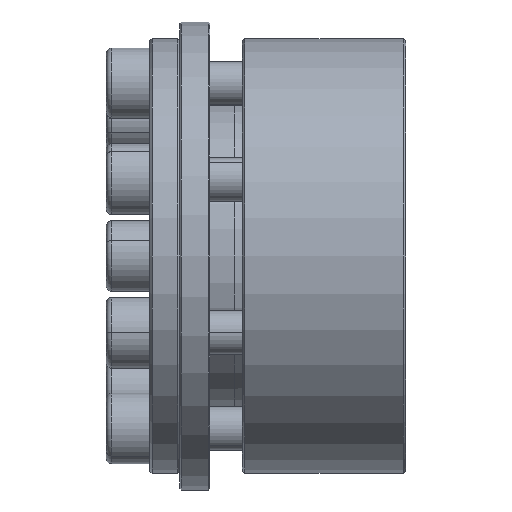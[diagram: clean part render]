
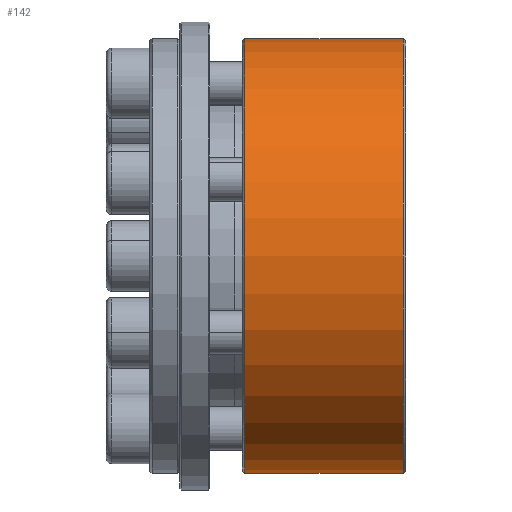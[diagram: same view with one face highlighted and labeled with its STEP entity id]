
A CAD part, front view. The second image highlights one B-rep face of the part: STEP entity #142.
In plain terms, the highlighted cylindrical face has radius 39.95 mm (diameter 79.9 mm), a partial arc.
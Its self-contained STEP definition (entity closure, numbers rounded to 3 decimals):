
#83 = CIRCLE ( 'NONE', #3886, 39.95 ) ;
#89 = DIRECTION ( 'NONE',  ( 0., 0., 1. ) ) ;
#142 = ADVANCED_FACE ( 'NONE', ( #3834 ), #3316, .T. ) ;
#377 = CARTESIAN_POINT ( 'NONE',  ( -88.366, 26.04, 39.95 ) ) ;
#1740 = CIRCLE ( 'NONE', #6519, 39.95 ) ;
#1746 = LINE ( 'NONE', #5666, #4339 ) ;
#1789 = DIRECTION ( 'NONE',  ( 0., 0., 1. ) ) ;
#2067 = DIRECTION ( 'NONE',  ( 1., 0., 0. ) ) ;
#2192 = VERTEX_POINT ( 'NONE', #377 ) ;
#2491 = CARTESIAN_POINT ( 'NONE',  ( -88.366, 26.04, -39.95 ) ) ;
#2564 = ORIENTED_EDGE ( 'NONE', *, *, #6174, .T. ) ;
#2831 = AXIS2_PLACEMENT_3D ( 'NONE', #7252, #5891, #89 ) ;
#3156 = VECTOR ( 'NONE', #3402, 1000. ) ;
#3316 = CYLINDRICAL_SURFACE ( 'NONE', #2831, 39.95 ) ;
#3386 = CARTESIAN_POINT ( 'NONE',  ( -59.166, 26.04, 39.95 ) ) ;
#3402 = DIRECTION ( 'NONE',  ( -1., 0., 0. ) ) ;
#3475 = EDGE_CURVE ( 'NONE', #2192, #8114, #83, .T. ) ;
#3834 = FACE_OUTER_BOUND ( 'NONE', #4573, .T. ) ;
#3886 = AXIS2_PLACEMENT_3D ( 'NONE', #7117, #2067, #4021 ) ;
#4021 = DIRECTION ( 'NONE',  ( 0., 0., -1. ) ) ;
#4339 = VECTOR ( 'NONE', #6999, 1000. ) ;
#4573 = EDGE_LOOP ( 'NONE', ( #7856, #2564, #4908, #4689 ) ) ;
#4607 = CARTESIAN_POINT ( 'NONE',  ( -88.766, 26.04, 39.95 ) ) ;
#4689 = ORIENTED_EDGE ( 'NONE', *, *, #3475, .T. ) ;
#4749 = VERTEX_POINT ( 'NONE', #3386 ) ;
#4890 = DIRECTION ( 'NONE',  ( -1., 0., 0. ) ) ;
#4908 = ORIENTED_EDGE ( 'NONE', *, *, #7519, .T. ) ;
#5207 = LINE ( 'NONE', #4607, #3156 ) ;
#5666 = CARTESIAN_POINT ( 'NONE',  ( -88.766, 26.04, -39.95 ) ) ;
#5891 = DIRECTION ( 'NONE',  ( -1., 0., 0. ) ) ;
#6174 = EDGE_CURVE ( 'NONE', #7213, #4749, #1740, .T. ) ;
#6186 = EDGE_CURVE ( 'NONE', #7213, #8114, #1746, .T. ) ;
#6519 = AXIS2_PLACEMENT_3D ( 'NONE', #8188, #4890, #1789 ) ;
#6753 = CARTESIAN_POINT ( 'NONE',  ( -59.166, 26.04, -39.95 ) ) ;
#6999 = DIRECTION ( 'NONE',  ( -1., 0., 0. ) ) ;
#7117 = CARTESIAN_POINT ( 'NONE',  ( -88.366, 26.04, 0. ) ) ;
#7213 = VERTEX_POINT ( 'NONE', #6753 ) ;
#7252 = CARTESIAN_POINT ( 'NONE',  ( -88.766, 26.04, 0. ) ) ;
#7519 = EDGE_CURVE ( 'NONE', #4749, #2192, #5207, .T. ) ;
#7856 = ORIENTED_EDGE ( 'NONE', *, *, #6186, .F. ) ;
#8114 = VERTEX_POINT ( 'NONE', #2491 ) ;
#8188 = CARTESIAN_POINT ( 'NONE',  ( -59.166, 26.04, 0. ) ) ;
